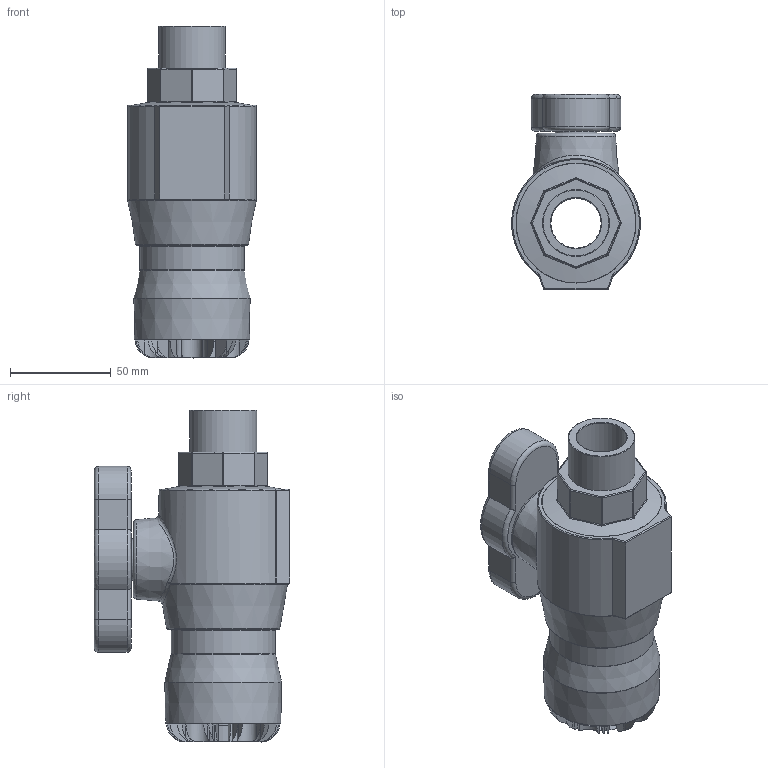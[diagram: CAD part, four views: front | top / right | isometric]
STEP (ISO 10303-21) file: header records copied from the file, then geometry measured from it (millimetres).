
FILE_DESCRIPTION(/* description */ ('PA Ball Valve Series 1 32mm x Male 1'''''),/* implementation_level */ '2;1');
FILE_NAME(/* name */ 'C:\Dropbox\99-16-3568-Processing\S1\0371002\03710020S00032010_03710020SF0032010.stp',/* time_stamp */ '2022-04-18T17:33:02+03:00',/* author */ ('Lenora'),/* organization */ (''),/* preprocessor_version */ 'ST-DEVELOPER v17.2',/* originating_system */ 'Autodesk Inventor 2019',/* authorisation */ '');
FILE_SCHEMA (('AUTOMOTIVE_DESIGN { 1 0 10303 214 3 1 1 }'));
Length unit declared in the file: millimetre
Products named in the file (1): 03710020S00032010_03710020SF0032010
Bounding box: 63.98 x 97 x 165 mm (x, y, z)
Volume: 378095.9 mm3; surface area: 60029.3 mm2
Topology: 1 solids, 1 shells, 215 faces, 535 edges, 327 vertices
Faces by surface type: plane 80, cylinder 73, bspline 26, torus 21, sphere 8, cone 7
Full cylindrical faces by diameter (mm): 20.625 x1, 25 x1, 32 x1, 33.249 x1, 34 x1, 51.84 x1
Entity records: 7683 total; most frequent: CARTESIAN_POINT 2649, ORIENTED_EDGE 1062, DIRECTION 1051, EDGE_CURVE 531, AXIS2_PLACEMENT_3D 440, VERTEX_POINT 325, CIRCLE 246, EDGE_LOOP 224
